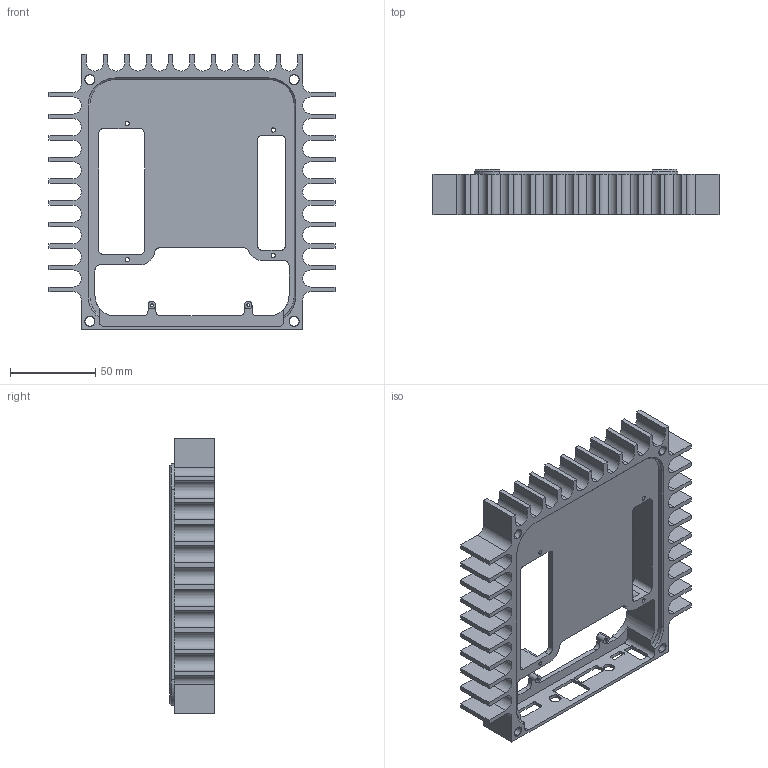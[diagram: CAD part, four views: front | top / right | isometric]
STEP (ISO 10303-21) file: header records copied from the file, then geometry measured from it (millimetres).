
FILE_DESCRIPTION (( 'STEP AP203' ), '1' );
FILE_NAME ('EMC2_Blade.STEP', '2021-12-01T13:57:22', ( '' ), ( '' ), 'SwSTEP 2.0', 'SolidWorks 2020', '' );
FILE_SCHEMA (( 'CONFIG_CONTROL_DESIGN' ));
Length unit declared in the file: millimetre
Products named in the file (1): EMC2_Blade
Bounding box: 168 x 26.4 x 162 mm (x, y, z)
Volume: 157645.3 mm3; surface area: 79115.5 mm2
Topology: 1 solids, 1 shells, 528 faces, 1490 edges, 982 vertices
Faces by surface type: plane 276, cylinder 149, bspline 79, cone 24
Entity records: 25657 total; most frequent: CARTESIAN_POINT 12244, ORIENTED_EDGE 2980, DIRECTION 2476, EDGE_CURVE 1490, VERTEX_POINT 982, LINE 912, VECTOR 912, AXIS2_PLACEMENT_3D 782
